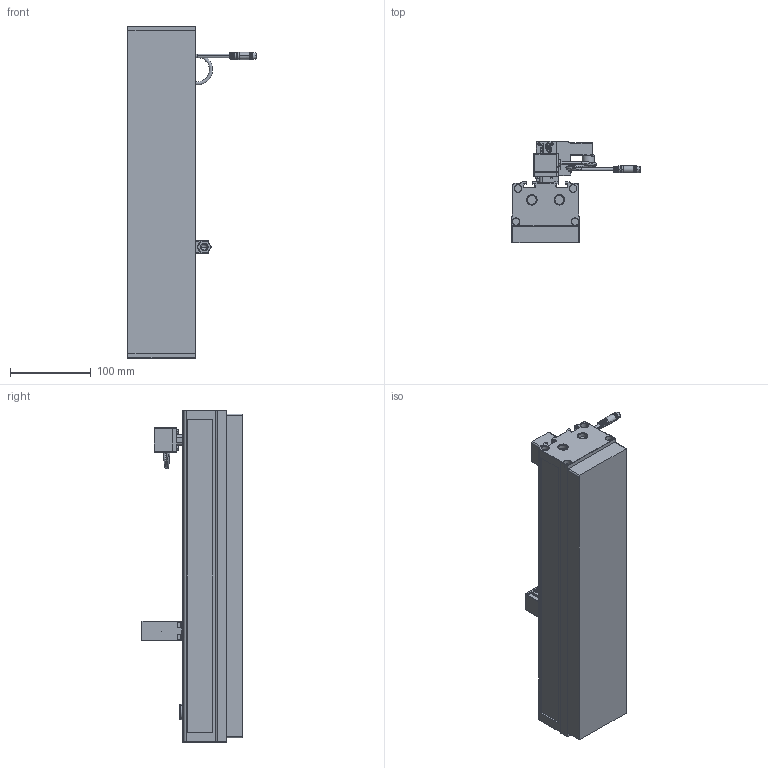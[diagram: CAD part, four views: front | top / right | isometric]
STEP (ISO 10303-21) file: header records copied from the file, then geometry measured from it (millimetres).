
FILE_DESCRIPTION (( 'STEP AP203' ), '1' );
FILE_NAME ('80X400.STEP', '2021-03-15T08:34:02', ( '' ), ( '' ), 'SwSTEP 2.0', 'SolidWorks 2014', '' );
FILE_SCHEMA (( 'CONFIG_CONTROL_DESIGN' ));
Length unit declared in the file: millimetre
Products named in the file (5): Part-1; 80X400; Part-4; Part-2; Part-3
Assembly tree (4 placements, depth 2):
  80X400
    Part-1
    Part-2
    Part-3
    Part-4
Bounding box: 159.07 x 125.47 x 410 mm (x, y, z)
Volume: 2441979.5 mm3; surface area: 190621.2 mm2
Topology: 4 solids, 10 shells, 1724 faces, 4337 edges, 2712 vertices
Faces by surface type: plane 844, bspline 366, cylinder 356, cone 66, torus 61, sphere 31
Entity records: 55649 total; most frequent: CARTESIAN_POINT 19662, ORIENTED_EDGE 8538, DIRECTION 5422, EDGE_CURVE 4269, VERTEX_POINT 2712, VECTOR 2654, LINE 2654, EDGE_LOOP 1873
